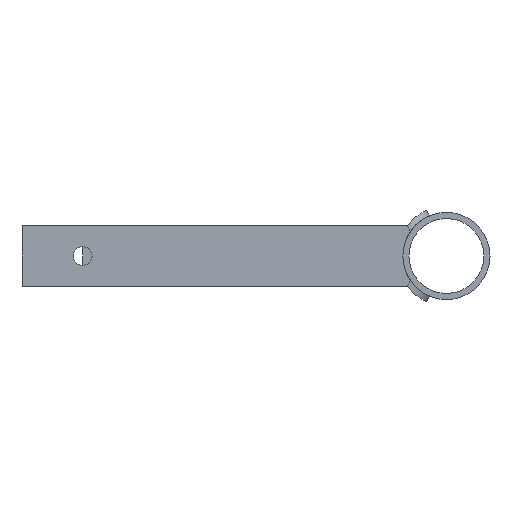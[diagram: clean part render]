
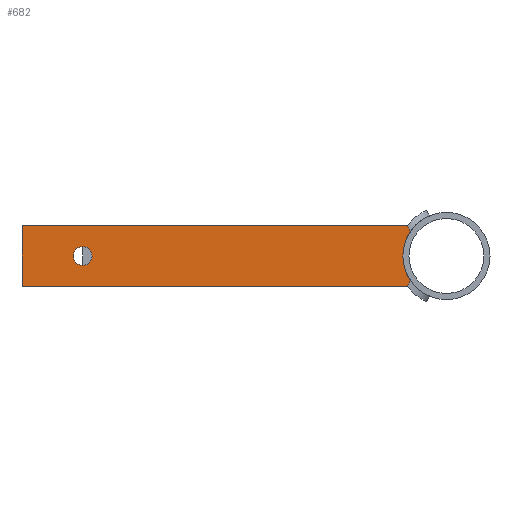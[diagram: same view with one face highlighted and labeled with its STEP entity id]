
A CAD part, front view. The second image highlights one B-rep face of the part: STEP entity #682.
In plain terms, the highlighted planar face has unit normal (0, -1, 0).
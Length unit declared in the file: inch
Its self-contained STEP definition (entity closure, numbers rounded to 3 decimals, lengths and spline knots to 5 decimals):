
#15=FACE_BOUND('',#137,.T.);
#35=PLANE('',#756);
#42=CIRCLE('',#715,1.6375);
#45=CIRCLE('',#722,1.6375);
#52=CIRCLE('',#736,1.4375);
#55=CIRCLE('',#739,1.4375);
#61=CIRCLE('',#750,0.3125);
#101=FACE_OUTER_BOUND('',#136,.T.);
#136=EDGE_LOOP('',(#552,#553,#554,#555,#556,#557,#558,#559,#560));
#137=EDGE_LOOP('',(#561));
#160=LINE('',#1074,#210);
#161=LINE('',#1097,#211);
#188=LINE('',#1240,#238);
#192=LINE('',#1253,#242);
#197=LINE('',#1261,#247);
#210=VECTOR('',#803,0.3937);
#211=VECTOR('',#806,0.3937);
#238=VECTOR('',#887,0.3937);
#242=VECTOR('',#901,0.3937);
#247=VECTOR('',#908,0.3937);
#267=VERTEX_POINT('',#1024);
#268=VERTEX_POINT('',#1043);
#271=VERTEX_POINT('',#1053);
#273=VERTEX_POINT('',#1077);
#274=VERTEX_POINT('',#1096);
#279=VERTEX_POINT('',#1144);
#297=VERTEX_POINT('',#1214);
#305=VERTEX_POINT('',#1238);
#308=VERTEX_POINT('',#1248);
#309=VERTEX_POINT('',#1252);
#334=EDGE_CURVE('',#268,#267,#42,.T.);
#340=EDGE_CURVE('',#271,#267,#160,.T.);
#342=EDGE_CURVE('',#273,#274,#161,.T.);
#349=EDGE_CURVE('',#273,#279,#45,.T.);
#375=EDGE_CURVE('',#297,#271,#52,.T.);
#379=EDGE_CURVE('',#274,#297,#55,.T.);
#388=EDGE_CURVE('',#279,#305,#188,.T.);
#392=EDGE_CURVE('',#308,#308,#61,.T.);
#394=EDGE_CURVE('',#309,#268,#192,.T.);
#399=EDGE_CURVE('',#305,#309,#197,.T.);
#552=ORIENTED_EDGE('',*,*,#340,.F.);
#553=ORIENTED_EDGE('',*,*,#375,.F.);
#554=ORIENTED_EDGE('',*,*,#379,.F.);
#555=ORIENTED_EDGE('',*,*,#342,.F.);
#556=ORIENTED_EDGE('',*,*,#349,.T.);
#557=ORIENTED_EDGE('',*,*,#388,.T.);
#558=ORIENTED_EDGE('',*,*,#399,.T.);
#559=ORIENTED_EDGE('',*,*,#394,.T.);
#560=ORIENTED_EDGE('',*,*,#334,.T.);
#561=ORIENTED_EDGE('',*,*,#392,.T.);
#682=ADVANCED_FACE('',(#101,#15),#35,.T.);
#715=AXIS2_PLACEMENT_3D('',#1044,#792,#793);
#722=AXIS2_PLACEMENT_3D('',#1146,#814,#815);
#736=AXIS2_PLACEMENT_3D('',#1216,#860,#861);
#739=AXIS2_PLACEMENT_3D('',#1222,#867,#868);
#750=AXIS2_PLACEMENT_3D('',#1249,#896,#897);
#756=AXIS2_PLACEMENT_3D('',#1267,#917,#918);
#792=DIRECTION('center_axis',(0.,-1.,0.));
#793=DIRECTION('ref_axis',(-0.401,0.,0.916));
#803=DIRECTION('',(-0.5,0.,-0.866));
#806=DIRECTION('',(0.5,0.,-0.866));
#814=DIRECTION('center_axis',(0.,-1.,0.));
#815=DIRECTION('ref_axis',(-0.401,0.,0.916));
#860=DIRECTION('center_axis',(0.,-1.,0.));
#861=DIRECTION('ref_axis',(1.,0.,0.));
#867=DIRECTION('center_axis',(0.,-1.,0.));
#868=DIRECTION('ref_axis',(1.,0.,0.));
#887=DIRECTION('',(-1.,0.,0.));
#896=DIRECTION('center_axis',(0.,1.,0.));
#897=DIRECTION('ref_axis',(-1.,0.,0.));
#901=DIRECTION('',(1.,0.,0.));
#908=DIRECTION('',(0.,0.,-1.));
#917=DIRECTION('center_axis',(0.,-1.,0.));
#918=DIRECTION('ref_axis',(0.,0.,-1.));
#1024=CARTESIAN_POINT('',(-1.29395,4.,-1.00355));
#1043=CARTESIAN_POINT('',(-1.29669,4.,-1.));
#1044=CARTESIAN_POINT('Origin',(0.,4.,0.));
#1053=CARTESIAN_POINT('',(-1.18466,4.,-0.81425));
#1074=CARTESIAN_POINT('',(-1.96228,4.,-2.16113));
#1077=CARTESIAN_POINT('',(-1.29395,4.,1.00355));
#1096=CARTESIAN_POINT('',(-1.18466,4.,0.81425));
#1097=CARTESIAN_POINT('',(-1.62292,4.,1.57334));
#1144=CARTESIAN_POINT('',(-1.29669,4.,1.));
#1146=CARTESIAN_POINT('Origin',(0.,4.,0.));
#1214=CARTESIAN_POINT('',(-1.4375,4.,0.));
#1216=CARTESIAN_POINT('Origin',(0.,4.,0.));
#1222=CARTESIAN_POINT('Origin',(0.,4.,0.));
#1238=CARTESIAN_POINT('',(-14.,4.,1.));
#1240=CARTESIAN_POINT('',(0.,4.,1.));
#1248=CARTESIAN_POINT('',(-11.6875,4.,0.));
#1249=CARTESIAN_POINT('Origin',(-12.,4.,0.));
#1252=CARTESIAN_POINT('',(-14.,4.,-1.));
#1253=CARTESIAN_POINT('',(-14.,4.,-1.));
#1261=CARTESIAN_POINT('',(-14.,4.,-0.8));
#1267=CARTESIAN_POINT('Origin',(-7.,4.,-0.9));
